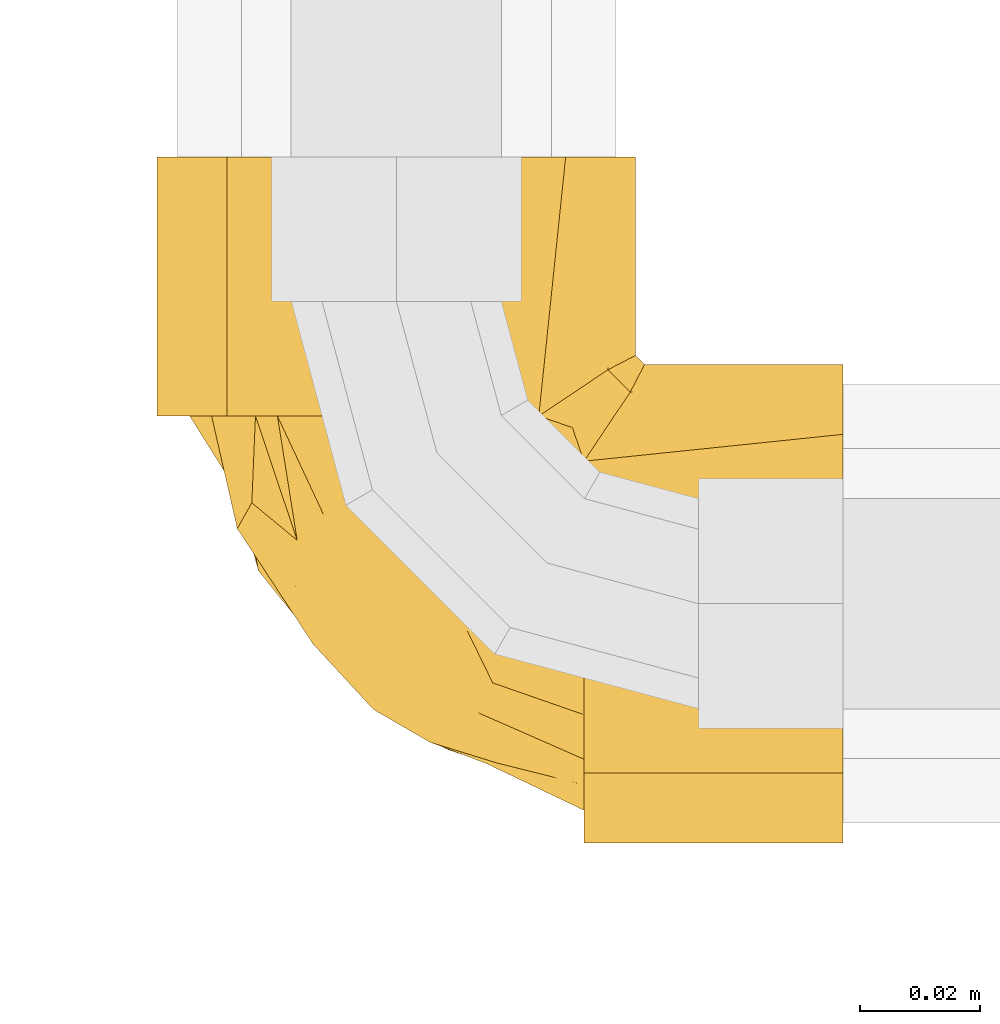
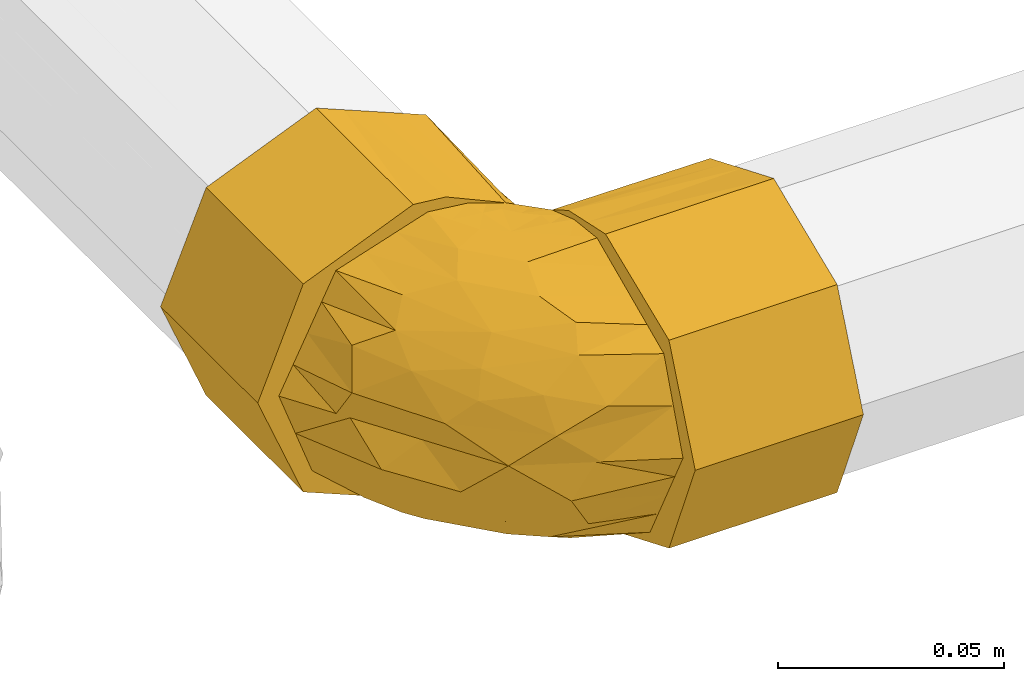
# One storey, part 253 of 652: 1 covering.
"""IFC2X3 building model written with IfcOpenShell, lengths in millimetres."""

from ifc_helpers import new_model, entity, si_unit, converted_unit, direction, frame, origin, place, context, subcontext, project, spatial, faceted_brep, material, type_object, element, save


model = new_model("IFC2X3")

# Units and contexts
model_context = context("Model", 3, precision=0.01, world=frame((0.0, 0.0, 308426.39999999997)), true_north=direction((6.123233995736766e-17, 1.0)))
plan_context = context("Plan", 3, precision=0.01, world=frame((0.0, 0.0, 308426.39999999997)), true_north=direction((6.123233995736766e-17, 1.0)))
body_context = subcontext(model_context, "Body", "Model", "MODEL_VIEW")
ifc_project = project(units=[si_unit("LENGTHUNIT", "METRE", prefix="MILLI"), si_unit("AREAUNIT", "SQUARE_METRE"), si_unit("VOLUMEUNIT", "CUBIC_METRE"), converted_unit("PLANEANGLEUNIT", "DEGREE", entity("IfcPlaneAngleMeasure", 0.017453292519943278), si_unit("PLANEANGLEUNIT", "RADIAN"), dimensions=[0, 0, 0, 0, 0, 0, 0])], contexts=[model_context, plan_context])

# Site, building, storey
site_placement = place(None, origin())
site = spatial("IfcSite", under=ifc_project, at=site_placement, Name="Default", CompositionType="ELEMENT")
building_placement = place(site_placement, origin())
building = spatial("IfcBuilding", under=site, at=building_placement, CompositionType="ELEMENT")
storey_placement = place(building_placement, frame((0.0, 0.0, 1730.6999999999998)))
storey = spatial("IfcBuildingStorey", under=building, at=storey_placement, Name="EG_Produktion_FFB", CompositionType="ELEMENT", Elevation=1730.6999999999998)

# Covering
ifc_material = material(Name="Dämmung - Armaflex-Schlauch")
covering_type = type_object("IfcCoveringType", Name="Rohrdämmung außen:Armaflex-Schlauch", PredefinedType="INSULATION")
covering_placement = place(storey_placement, frame((79080.6974754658, 51596.63308173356, 3558.604727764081)))
element("IfcCovering", 1, at=covering_placement, inside=storey, type_object=covering_type, material=ifc_material, Name="Rohrdämmung außen:Armaflex-Schlauch", ObjectType="Rohrdämmung außen:Armaflex-Schlauch", PredefinedType="INSULATION", context=body_context, shape_type="Brep", body=[
    faceted_brep([(55.37038782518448, 72.59527223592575, 6.098554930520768), (51.35297020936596, 72.59527223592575, 5.62650296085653), (45.12980118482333, 72.59527223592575, 4.895272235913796), (37.49419488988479, 72.59527223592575, 8.337309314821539), (29.858588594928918, 72.59527223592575, 11.77934639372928), (22.684812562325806, 72.59527223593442, 15.013196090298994), (15.511036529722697, 72.59527223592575, 18.247045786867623), (11.256907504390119, 72.59527223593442, 29.821159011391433), (7.0027784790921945, 72.59527223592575, 41.39527223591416), (10.65202223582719, 72.59527223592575, 48.61370078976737), (14.301265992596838, 72.59527223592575, 55.83212934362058), (17.95050974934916, 72.59527223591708, 63.05055789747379), (21.599753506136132, 72.59527223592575, 70.268986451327), (28.974657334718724, 72.59527223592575, 72.65925463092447), (37.052229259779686, 72.59527223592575, 75.27726343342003), (45.12980118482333, 72.59527223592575, 77.89527223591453), (51.35297020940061, 72.59527223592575, 77.16404151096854), (55.37038782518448, 72.59527223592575, 76.69198954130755), (60.22206990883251, 72.59527223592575, 75.03870510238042), (65.0737519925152, 72.59527223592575, 73.38542066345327), (57.433361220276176, 72.59527223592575, 76.84233005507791), (49.79297044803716, 72.59527223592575, 80.29923944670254), (41.39527223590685, 72.59527223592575, 81.19527223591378), (33.39506010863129, 72.59527223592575, 77.88147587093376), (27.323847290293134, 72.59527223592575, 75.3666971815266), (20.28813481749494, 72.59527223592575, 72.45240965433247), (13.252422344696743, 72.59527223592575, 69.53812212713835), (10.338134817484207, 72.59527223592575, 62.502409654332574), (7.423847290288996, 72.59527223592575, 55.4666971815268), (4.509559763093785, 72.59527223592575, 48.43098470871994), (1.5952722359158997, 72.59527223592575, 41.39527223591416), (4.9090686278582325, 72.59527223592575, 33.39506004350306), (7.423847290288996, 72.59527223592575, 27.323847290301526), (10.338134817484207, 72.59527223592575, 20.288134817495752), (13.252422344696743, 72.59527223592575, 13.252422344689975), (20.28813481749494, 72.59527223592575, 10.338134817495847), (27.323847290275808, 72.59527223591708, 7.423847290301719), (33.395061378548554, 72.59527223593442, 4.909068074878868), (41.39527223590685, 72.59527223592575, 1.5952722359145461), (49.59864940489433, 72.59527223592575, 3.364784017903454), (57.80202657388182, 72.59527223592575, 5.134295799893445), (65.0737519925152, 72.59527223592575, 9.405123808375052), (60.22206990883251, 72.59527223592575, 7.75183936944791), (48.43098470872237, 115.64527223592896, 78.28098470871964), (55.466697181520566, 115.64527223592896, 75.3666971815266), (62.50240965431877, 115.64527223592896, 72.45240965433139), (69.53812212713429, 115.64527223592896, 69.53812212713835), (72.4524096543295, 115.64527223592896, 62.502409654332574), (75.36669718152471, 115.64527223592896, 55.4666971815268), (77.88147577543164, 115.64527223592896, 49.39548459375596), (81.19527223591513, 115.64527223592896, 41.39527223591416), (77.88147645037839, 115.64527223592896, 33.395061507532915), (75.36669718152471, 115.64527223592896, 27.323847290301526), (72.4524096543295, 115.64527223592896, 20.28813481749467), (69.53812212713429, 115.64527223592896, 13.252422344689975), (62.50240965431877, 115.64527223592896, 10.338134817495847), (55.466697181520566, 115.64527223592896, 7.423847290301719), (48.43098470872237, 115.64527223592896, 4.509559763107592), (41.39527223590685, 115.64527223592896, 1.5952722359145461), (34.35955976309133, 115.64527223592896, 4.509559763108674), (27.323847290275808, 115.64527223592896, 7.423847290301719), (20.288134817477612, 115.64527223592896, 10.338134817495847), (13.252422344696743, 115.64527223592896, 13.252422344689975), (10.338134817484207, 115.64527223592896, 20.288134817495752), (7.423847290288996, 115.64527223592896, 27.323847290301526), (4.509559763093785, 115.64527223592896, 34.359559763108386), (1.5952722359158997, 115.64527223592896, 41.39527223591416), (4.509559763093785, 115.64527223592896, 48.43098470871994), (7.423847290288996, 115.64527223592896, 55.4666971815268), (10.338134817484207, 115.64527223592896, 62.502409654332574), (13.252422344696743, 115.64527223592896, 69.53812212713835), (25.394847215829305, 115.64527223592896, 74.56767918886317), (33.39505972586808, 115.64527223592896, 77.881475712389), (41.39527223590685, 115.64527223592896, 81.19527223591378), (70.83137669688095, 76.44407623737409, 66.68337377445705), (81.19527223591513, 82.67731282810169, 41.39527223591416), (78.89213681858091, 81.48509653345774, 50.68829956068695), (76.58900140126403, 80.29288023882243, 59.981326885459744), (77.7405691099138, 80.88898838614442, 55.33481322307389), (70.83137669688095, 76.44407623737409, 16.107170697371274), (78.89213681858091, 81.48509653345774, 32.10224491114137), (76.58900140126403, 80.29288023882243, 22.80921758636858), (80.12613767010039, 82.12387613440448, 37.08137186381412), (72.59527223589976, 41.395272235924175, 1.595272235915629), (72.59527223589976, 33.39506017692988, 4.909068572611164), (72.59527223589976, 27.32384729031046, 7.423847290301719), (72.59527223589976, 20.2881348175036, 10.338134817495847), (72.59527223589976, 13.252422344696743, 13.252422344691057), (72.59527223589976, 10.338134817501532, 20.288134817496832), (72.59527223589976, 7.4238472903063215, 27.32384729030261), (72.59527223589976, 4.909068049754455, 33.39506143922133), (72.59527223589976, 1.5952722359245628, 41.39527223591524), (72.59527223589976, 4.909068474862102, 49.39548405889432), (72.59527223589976, 7.4238472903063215, 55.4666971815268), (72.59527223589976, 10.338134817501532, 62.502409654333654), (72.59527223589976, 13.252422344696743, 69.53812212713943), (72.59527223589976, 20.2881348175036, 72.45240965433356), (72.59527223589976, 27.32384729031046, 75.3666971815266), (72.59527223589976, 34.35955976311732, 78.28098470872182), (72.59527223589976, 41.395272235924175, 81.19527223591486), (72.59527223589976, 49.598680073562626, 79.42574657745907), (72.59527223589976, 57.802087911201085, 77.65622091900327), (72.59527223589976, 65.0737519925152, 73.38542066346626), (72.59527223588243, 60.22206990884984, 75.03870510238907), (72.59527223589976, 55.37038782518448, 76.6919895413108), (72.59527223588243, 51.35297091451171, 77.16404142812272), (72.59527223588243, 48.24138604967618, 77.52965683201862), (72.59527223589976, 45.12980118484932, 77.89527223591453), (72.59527223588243, 37.72300085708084, 74.55483320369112), (72.59527223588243, 30.316200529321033, 71.2143941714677), (72.59527223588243, 22.909400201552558, 67.87395513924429), (72.59527223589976, 15.502599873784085, 64.53351610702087), (72.59527223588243, 13.377644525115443, 58.748955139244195), (72.59527223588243, 11.252689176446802, 52.96439417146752), (72.59527223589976, 7.00277847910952, 41.39527223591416), (72.59527223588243, 10.65492706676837, 34.17467666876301), (72.59527223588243, 14.307075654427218, 26.954081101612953), (72.59527223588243, 17.959224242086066, 19.73348553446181), (72.59527223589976, 21.61137282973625, 12.512889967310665), (72.59527223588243, 27.49097991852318, 10.608485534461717), (72.59527223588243, 33.370587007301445, 8.704081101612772), (72.59527223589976, 45.12980118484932, 4.895272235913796), (72.59527223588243, 48.241386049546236, 5.26088763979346), (72.59527223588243, 51.35297091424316, 5.626503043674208), (72.59527223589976, 55.37038782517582, 6.098554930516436), (72.59527223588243, 60.22206990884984, 7.751839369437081), (72.59527223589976, 65.07375199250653, 9.405123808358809), (72.59527223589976, 57.433378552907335, 5.948218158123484), (72.59527223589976, 49.7930051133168, 2.4913125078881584), (115.64527223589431, 34.35955976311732, 78.28098470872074), (115.64527223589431, 27.32384729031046, 75.3666971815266), (115.64527223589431, 20.2881348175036, 72.45240965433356), (115.64527223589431, 13.252422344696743, 69.53812212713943), (115.64527223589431, 8.222865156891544, 57.39569695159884), (115.64527223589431, 4.909068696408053, 49.39548459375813), (115.64527223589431, 1.5952722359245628, 41.39527223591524), (115.64527223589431, 4.509559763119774, 34.359559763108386), (115.64527223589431, 7.4238472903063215, 27.32384729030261), (115.64527223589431, 10.338134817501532, 20.288134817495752), (115.64527223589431, 13.252422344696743, 13.252422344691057), (115.64527223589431, 20.2881348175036, 10.33813481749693), (115.64527223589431, 27.32384729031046, 7.4238472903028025), (115.64527223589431, 34.35955976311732, 4.509559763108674), (115.64527223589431, 41.395272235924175, 1.595272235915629), (115.64527223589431, 48.43098470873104, 4.509559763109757), (115.64527223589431, 55.466697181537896, 7.4238472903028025), (115.64527223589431, 62.50240965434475, 10.33813481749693), (115.64527223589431, 69.53812212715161, 13.252422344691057), (115.64527223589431, 72.45240965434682, 20.288134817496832), (115.64527223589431, 75.36669718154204, 27.32384729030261), (115.64527223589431, 77.88147570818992, 33.39505971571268), (115.64527223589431, 81.1952722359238, 41.39527223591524), (115.64527223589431, 77.88147644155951, 49.39548298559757), (115.64527223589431, 75.36669718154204, 55.4666971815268), (115.64527223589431, 72.45240965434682, 62.502409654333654), (115.64527223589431, 69.53812212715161, 69.53812212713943), (115.64527223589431, 62.50240965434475, 72.45240965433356), (115.64527223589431, 55.466697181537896, 75.3666971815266), (115.64527223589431, 49.39548474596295, 77.881475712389), (115.64527223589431, 41.395272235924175, 81.19527223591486), (82.67731282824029, 81.1952722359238, 41.39527223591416), (81.48509653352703, 78.89213681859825, 50.68829956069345), (80.29288023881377, 76.58900140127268, 59.98132688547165), (81.57043946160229, 79.05700314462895, 50.02307281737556), (76.44407623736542, 70.83137669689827, 66.68337377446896), (76.44407623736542, 70.83137669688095, 16.107170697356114), (81.48509653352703, 78.89213681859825, 32.102244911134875), (80.29288023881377, 76.58900140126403, 22.8092175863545), (81.57043946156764, 79.05700314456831, 32.76747165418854), (82.12387614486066, 80.12613769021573, 37.08137194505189), (57.40447907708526, 28.205259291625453, 70.65290767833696), (29.22139118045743, 56.296662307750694, 70.91336597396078), (40.05276523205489, 50.742208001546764, 74.40809412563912), (51.722743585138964, 61.09574012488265, 77.89527223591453), (44.468716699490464, 57.98700830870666, 77.07752798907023), (55.20607979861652, 45.95172817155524, 76.96826993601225), (40.811918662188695, 36.87858536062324, 68.49449972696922), (24.889275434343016, 51.909508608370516, 65.48820465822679), (37.5856247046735, 23.77309316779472, 41.39527223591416), (46.90627199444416, 18.355767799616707, 49.46378362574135), (27.55734768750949, 34.623017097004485, 49.82658758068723), (14.648490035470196, 60.38972746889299, 41.39527223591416), (14.916371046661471, 53.86132940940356, 50.82629237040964), (36.28103805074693, 33.57636526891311, 62.24141127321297), (70.20187735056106, 46.96057105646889, 77.89527223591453), (67.80848246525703, 48.791340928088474, 77.89527223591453), (63.02169269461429, 52.45288067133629, 77.89527223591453), (62.159007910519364, 53.112770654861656, 77.89527223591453), (57.37221813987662, 56.77431039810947, 77.89527223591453), (55.05614675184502, 23.20529031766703, 65.57850605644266), (24.586625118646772, 44.28104373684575, 59.26004062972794), (17.34247051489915, 58.151374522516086, 60.27659836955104), (45.92174075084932, 22.79549192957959, 58.24092024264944), (33.99708214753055, 30.87352403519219, 55.90055874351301), (55.09044847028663, 15.387935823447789, 41.39527223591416), (56.27567245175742, 14.820190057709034, 41.39527223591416), (22.29420159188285, 48.18418270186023, 41.39527223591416), (26.01086359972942, 42.250937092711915, 41.395272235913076), (29.939913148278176, 35.978637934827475, 41.39527223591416), (57.87848940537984, 14.945981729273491, 55.800118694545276), (53.175198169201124, 36.86716203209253, 73.86746114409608), (16.506821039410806, 57.4231046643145, 41.39527223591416), (48.15377857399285, 67.3207949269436, 77.89527223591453), (55.97900107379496, 66.95210059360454, 77.23917866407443), (61.26475606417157, 67.68084856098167, 76.01108025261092), (81.90790933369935, 81.90790933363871, 41.39527223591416), (64.05926779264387, 64.0592672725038, 76.11562270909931), (70.657051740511, 70.65705203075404, 71.53408147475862), (67.68084924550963, 61.26475634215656, 76.01108003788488), (67.04460292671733, 56.00707165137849, 77.22455062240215), (55.97900107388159, 66.95210059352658, 5.55136580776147), (48.153778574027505, 67.32079492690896, 4.895272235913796), (70.6570520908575, 70.65705212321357, 11.256463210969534), (64.05926854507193, 64.0592680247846, 6.674922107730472), (57.372218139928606, 56.77431039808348, 4.895272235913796), (61.2647560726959, 67.68084859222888, 6.7794642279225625), (67.68084927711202, 61.264756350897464, 6.779464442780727), (67.04460292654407, 56.00707165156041, 5.565993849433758), (67.80848246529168, 48.79134092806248, 4.895272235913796), (70.20187735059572, 46.96057105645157, 4.895272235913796), (63.02169269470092, 52.45288067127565, 4.895272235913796), (62.159007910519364, 53.112770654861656, 4.895272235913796), (51.722743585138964, 61.09574012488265, 4.895272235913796), (37.59649450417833, 55.93070336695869, 7.904825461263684), (29.779001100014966, 57.41477332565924, 11.15313112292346), (58.35673429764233, 39.07241371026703, 6.909214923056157), (30.25008837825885, 32.138649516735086, 31.85158433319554), (38.50982378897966, 35.61207145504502, 16.77970492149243), (47.230699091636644, 41.05493786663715, 9.12217175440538), (50.9601072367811, 28.565877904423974, 14.607836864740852), (50.778566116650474, 49.42123922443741, 5.896678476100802), (42.44960378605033, 59.57612792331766, 5.888277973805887), (29.826692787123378, 47.70689865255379, 15.35161780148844), (39.68498593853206, 28.82672081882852, 22.540337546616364), (49.866350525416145, 17.11819465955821, 31.634152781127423), (55.105408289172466, 18.653154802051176, 22.719372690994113), (58.24750794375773, 32.13514386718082, 9.627121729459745), (19.80413545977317, 50.73714499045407, 24.594765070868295), (29.15087133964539, 40.74201153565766, 21.091652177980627), (21.439025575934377, 59.56172140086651, 16.7503826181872), (18.424421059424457, 46.88832387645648, 33.11251139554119)], [[[0, 1, 2, 3, 4, 5, 6, 7, 8, 9, 10, 11, 12, 13, 14, 15, 16, 17, 18, 19, 20, 21, 22, 23, 24, 25, 26, 27, 28, 29, 30, 31, 32, 33, 34, 35, 36, 37, 38, 39, 40, 41, 42]], [[43, 44, 45, 46, 47, 48, 49, 50, 51, 52, 53, 54, 55, 56, 57, 58, 59, 60, 61, 62, 63, 64, 65, 66, 67, 68, 69, 70, 71, 72, 73]], [[47, 46, 74]], [[75, 50, 49]], [[76, 75, 49]], [[48, 77, 78, 76]], [[47, 74, 77]], [[44, 20, 45]], [[43, 21, 44]], [[46, 19, 74]], [[77, 48, 47]], [[44, 21, 20]], [[43, 22, 21]], [[48, 76, 49]], [[43, 73, 22]], [[45, 20, 19]], [[19, 46, 45]], [[23, 22, 73, 72, 71, 70, 26, 25, 24]], [[26, 70, 69, 68, 67, 66, 30, 29, 28, 27]], [[38, 37, 36, 35, 34, 62, 61, 60, 59, 58]], [[30, 66, 65, 64, 63, 62, 34, 33, 32, 31]], [[56, 40, 39]], [[53, 79, 54]], [[39, 57, 56]], [[41, 55, 54]], [[40, 55, 41]], [[80, 52, 51]], [[52, 80, 81]], [[58, 57, 38]], [[51, 75, 82, 80]], [[38, 57, 39]], [[79, 53, 81]], [[55, 40, 56]], [[51, 50, 75]], [[53, 52, 81]], [[79, 41, 54]], [[83, 84, 85, 86, 87, 88, 89, 90, 91, 92, 93, 94, 95, 96, 97, 98, 99, 100, 101, 102, 103, 104, 105, 106, 107, 108, 109, 110, 111, 112, 113, 114, 115, 116, 117, 118, 119, 120, 121, 122, 123, 124, 125, 126, 127, 128]], [[129, 130, 131, 132, 133, 134, 135, 136, 137, 138, 139, 140, 141, 142, 143, 144, 145, 146, 147, 148, 149, 150, 151, 152, 153, 154, 155, 156, 157, 158, 159]], [[135, 134, 133, 132, 95, 94, 93, 92, 91]], [[95, 132, 131, 130, 129, 159, 99, 98, 97, 96]], [[159, 158, 157, 100]], [[101, 156, 102]], [[99, 159, 100]], [[101, 100, 157]], [[152, 151, 160]], [[102, 156, 155]], [[153, 161, 162]], [[161, 153, 152]], [[152, 160, 163, 161]], [[154, 164, 155]], [[164, 154, 162]], [[156, 101, 157]], [[154, 153, 162]], [[164, 102, 155]], [[148, 147, 165]], [[149, 166, 150]], [[166, 149, 167]], [[160, 151, 150]], [[148, 165, 167]], [[145, 127, 146]], [[144, 128, 145]], [[147, 126, 165]], [[167, 149, 148]], [[145, 128, 127]], [[144, 83, 128]], [[150, 166, 168, 169, 160]], [[144, 143, 83]], [[146, 127, 126]], [[126, 147, 146]], [[91, 90, 89, 88, 87, 139, 138, 137, 136, 135]], [[141, 140, 139, 87, 86, 85, 84, 83, 143, 142]], [[109, 170, 110]], [[13, 171, 172]], [[14, 13, 172]], [[173, 174, 175]], [[176, 171, 177]], [[15, 14, 174]], [[178, 179, 180]], [[9, 181, 182]], [[172, 175, 174]], [[13, 12, 171]], [[12, 11, 177]], [[176, 177, 183]], [[175, 107, 184, 185, 186, 187, 188, 173]], [[189, 170, 176]], [[176, 172, 171]], [[190, 191, 182]], [[11, 10, 191]], [[177, 11, 191]], [[170, 189, 110]], [[192, 183, 193]], [[179, 178, 194, 195]], [[182, 191, 10]], [[190, 182, 180]], [[177, 191, 190]], [[182, 10, 9]], [[182, 196, 180]], [[177, 190, 183]], [[177, 171, 12]], [[180, 196, 197, 198, 178]], [[113, 179, 195]], [[112, 111, 199, 113]], [[199, 111, 189]], [[195, 114, 113]], [[179, 192, 193]], [[200, 175, 172]], [[200, 108, 175]], [[172, 176, 200]], [[189, 111, 110]], [[200, 170, 109]], [[183, 189, 176]], [[108, 200, 109]], [[189, 192, 199]], [[108, 107, 175]], [[176, 170, 200]], [[193, 190, 180]], [[189, 183, 192]], [[190, 193, 183]], [[179, 193, 180]], [[181, 9, 8]], [[182, 181, 201, 196]], [[192, 179, 199]], [[179, 113, 199]], [[174, 173, 202, 15]], [[172, 174, 14]], [[173, 203, 202]], [[188, 204, 203]], [[17, 203, 18]], [[202, 17, 16, 15]], [[205, 76, 163]], [[74, 164, 162, 77]], [[163, 76, 78, 77, 162, 161]], [[206, 102, 207]], [[207, 164, 74]], [[106, 105, 104, 185, 184, 107]], [[206, 208, 102]], [[186, 185, 209, 188, 187]], [[205, 75, 76]], [[163, 160, 205]], [[206, 207, 19]], [[164, 207, 102]], [[19, 18, 204]], [[19, 207, 74]], [[202, 203, 17]], [[204, 206, 19]], [[203, 173, 188]], [[18, 203, 204]], [[102, 208, 103]], [[103, 209, 104]], [[208, 206, 188]], [[209, 103, 208]], [[209, 185, 104]], [[188, 209, 208]], [[204, 188, 206]], [[205, 160, 169]], [[210, 211, 0]], [[169, 168, 166, 167, 81, 80, 82]], [[41, 212, 213]], [[1, 0, 211, 2]], [[213, 214, 215]], [[205, 169, 82]], [[79, 165, 212]], [[126, 125, 216]], [[213, 212, 126]], [[205, 82, 75]], [[167, 165, 79, 81]], [[217, 124, 218]], [[210, 215, 214]], [[122, 121, 219, 218, 124, 123]], [[41, 79, 212]], [[212, 165, 126]], [[215, 41, 213]], [[125, 124, 217]], [[126, 216, 213]], [[125, 217, 216]], [[217, 218, 220, 221, 214]], [[215, 42, 41]], [[0, 42, 210]], [[211, 210, 222]], [[214, 213, 216]], [[210, 42, 215]], [[216, 217, 214]], [[210, 214, 222]], [[4, 223, 224]], [[121, 120, 225]], [[226, 178, 198, 197]], [[227, 228, 229]], [[230, 228, 223]], [[231, 222, 230]], [[224, 228, 232]], [[233, 234, 226]], [[3, 231, 223]], [[235, 234, 233]], [[236, 225, 120]], [[231, 2, 211, 222]], [[226, 237, 238]], [[4, 3, 223]], [[225, 221, 220, 218, 219, 121]], [[239, 224, 232]], [[6, 237, 7]], [[237, 6, 239]], [[240, 201, 7]], [[230, 225, 228]], [[226, 240, 237]], [[236, 228, 225]], [[229, 117, 235]], [[194, 234, 115]], [[226, 234, 178]], [[115, 114, 195, 194]], [[237, 239, 238]], [[240, 226, 197]], [[228, 224, 223]], [[224, 239, 5]], [[5, 239, 6]], [[5, 4, 224]], [[239, 232, 238]], [[7, 201, 181, 8]], [[7, 237, 240]], [[240, 197, 196, 201]], [[229, 118, 117]], [[194, 178, 234]], [[233, 238, 227]], [[235, 117, 116]], [[234, 235, 116]], [[229, 235, 233]], [[231, 3, 2]], [[230, 223, 231]], [[230, 222, 214, 221]], [[225, 230, 221]], [[119, 118, 236, 120]], [[236, 118, 229]], [[229, 228, 236]], [[234, 116, 115]], [[227, 238, 232]], [[226, 238, 233]], [[228, 227, 232]], [[233, 227, 229]]]),
])

save(model, "model.ifc")
